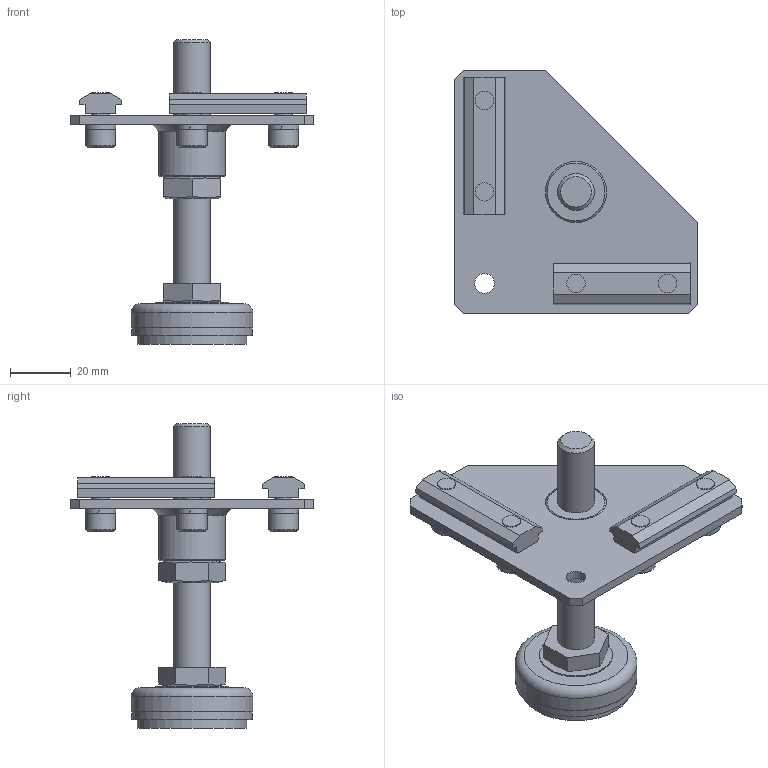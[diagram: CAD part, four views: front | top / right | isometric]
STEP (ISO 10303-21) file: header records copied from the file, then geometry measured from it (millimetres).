
FILE_DESCRIPTION(('STEP AP214'),'1');
FILE_NAME('LS40B-M12.stp','2022-10-21T01:55:43',(' '),(' '),'Spatial InterOp 3D',' ',' ');
FILE_SCHEMA(('AUTOMOTIVE_DESIGN { 1 0 10303 214 1 1 1 1 }'));
Length unit declared in the file: millimetre
Products named in the file (15): LS40B-M12; ねじ: 穴付き - M6.0 x 12.0; M6SW; NFM6-P30; LP40-M12; AJ1240L100; M12ナット
Assembly tree (14 placements, depth 3):
  LS40B-M12
    ねじ: 穴付き - M6.0 x 12.0
    M6SW
    M6SW
    ねじ: 穴付き - M6.0 x 12.0
    M6SW
    ねじ: 穴付き - M6.0 x 12.0
    ねじ: 穴付き - M6.0 x 12.0
    M6SW
    NFM6-P30
    NFM6-P30
    LP40-M12
    AJ1240L100
      AJ1240L100
      M12ナット
Bounding box: 80 x 80 x 100 mm (x, y, z)
Volume: 54795.4 mm3; surface area: 28817.9 mm2
Topology: 13 solids, 13 shells, 161 faces, 349 edges, 230 vertices
Faces by surface type: plane 114, cylinder 31, cone 15, torus 1
Full cylindrical faces by diameter (mm): 6 x4, 6.5 x5, 9.87 x4, 12 x3, 20 x2, 22 x1, 24 x1, 36 x1, 39.6 x1, 40 x1
Entity records: 5904 total; most frequent: CARTESIAN_POINT 847, DIRECTION 740, ORIENTED_EDGE 612, EDGE_CURVE 306, AXIS2_PLACEMENT_3D 275, EDGE_LOOP 238, VERTEX_POINT 226, LINE 190
